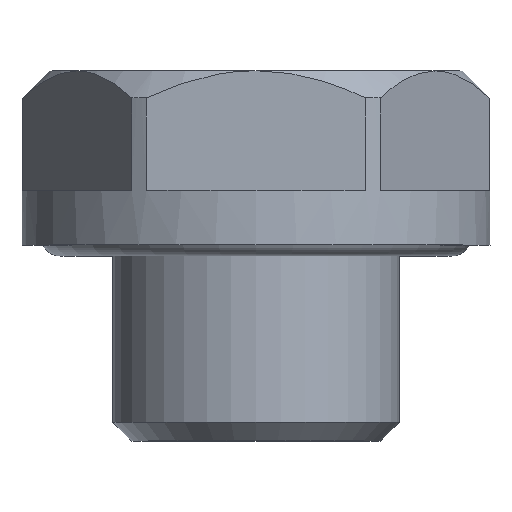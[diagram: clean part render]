
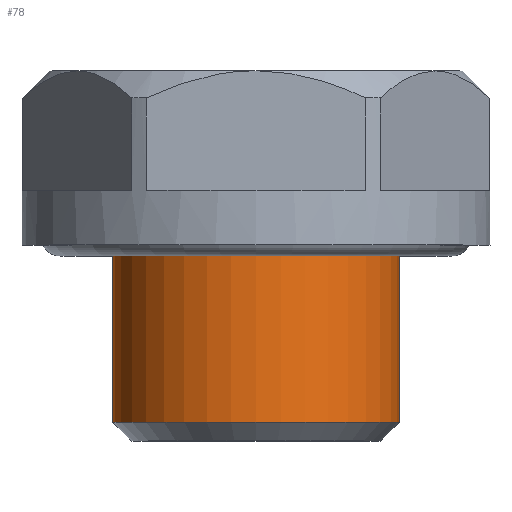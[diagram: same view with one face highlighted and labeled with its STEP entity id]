
A CAD part, top view. The second image highlights one B-rep face of the part: STEP entity #78.
In plain terms, the highlighted cylindrical face has radius 6.579 mm (diameter 13.157 mm), a full revolution.
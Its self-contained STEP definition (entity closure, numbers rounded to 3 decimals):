
#78 = ADVANCED_FACE( '', ( #141, #142 ), #143, .T. );
#141 = FACE_OUTER_BOUND( '', #267, .T. );
#142 = FACE_OUTER_BOUND( '', #268, .T. );
#143 = CYLINDRICAL_SURFACE( '', #269, 6.579 );
#267 = EDGE_LOOP( '', ( #403 ) );
#268 = EDGE_LOOP( '', ( #404 ) );
#269 = AXIS2_PLACEMENT_3D( '', #405, #406, #407 );
#403 = ORIENTED_EDGE( '', *, *, #829, .F. );
#404 = ORIENTED_EDGE( '', *, *, #830, .T. );
#405 = CARTESIAN_POINT( '', ( 0., 0., 0. ) );
#406 = DIRECTION( '', ( 0., 1., 0. ) );
#407 = DIRECTION( '', ( 0., 0., -1. ) );
#829 = EDGE_CURVE( '', #969, #969, #970, .T. );
#830 = EDGE_CURVE( '', #971, #971, #972, .T. );
#969 = VERTEX_POINT( '', #1209 );
#970 = CIRCLE( '', #1210, 6.579 );
#971 = VERTEX_POINT( '', #1211 );
#972 = CIRCLE( '', #1212, 6.579 );
#1209 = CARTESIAN_POINT( '', ( 0., 0.856, -6.579 ) );
#1210 = AXIS2_PLACEMENT_3D( '', #1591, #1592, #1593 );
#1211 = CARTESIAN_POINT( '', ( 0., 9., -6.579 ) );
#1212 = AXIS2_PLACEMENT_3D( '', #1594, #1595, #1596 );
#1591 = CARTESIAN_POINT( '', ( 0., 0.856, 0. ) );
#1592 = DIRECTION( '', ( 0., -1., 0. ) );
#1593 = DIRECTION( '', ( 0., 0., -1. ) );
#1594 = CARTESIAN_POINT( '', ( 0., 9., 0. ) );
#1595 = DIRECTION( '', ( 0., -1., 0. ) );
#1596 = DIRECTION( '', ( 0., 0., -1. ) );
